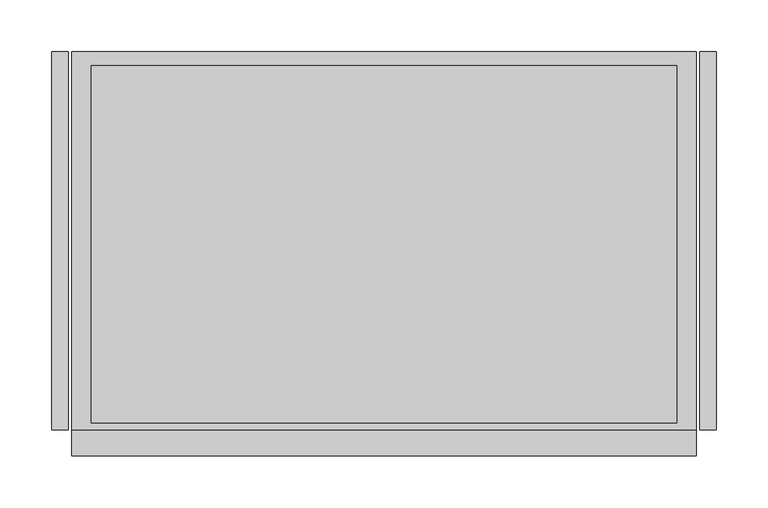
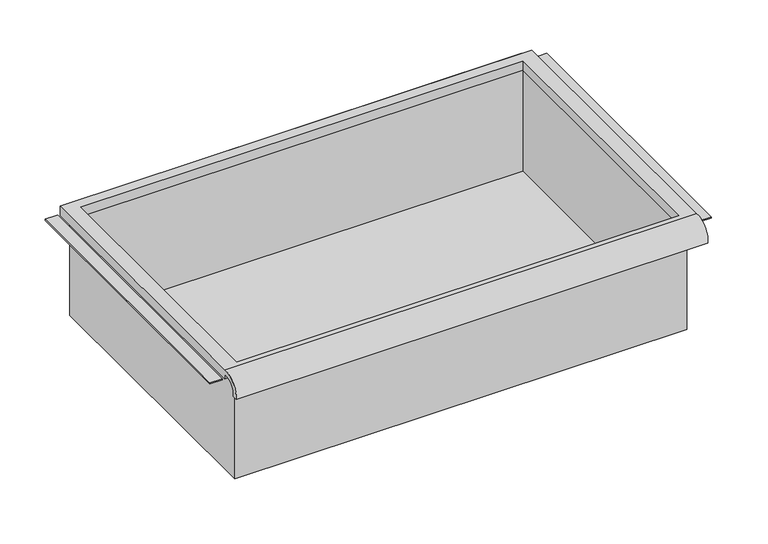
"""IFC4 building model written with IfcOpenShell, lengths in millimetres: furniture geometry."""

from ifc_helpers import new_model, si_unit, frame, origin, place, context, project, spatial, polyline, circle_curve, faceted_brep, source, transform, mapped, element, save
from ifc_brep_helpers import plane_surface, cylinder_surface, revolved_surface, advanced_brep


def furniture_9667c672(model_context):
    return source(origin(), model_context, "Body", "SolidModel", [
        advanced_brep(
        [(305.0224999, -195.297482, 510.3849529), (305.0224999, -188.9125, 510.3849529), (305.0224999, -169.8625, 528.6464261), (305.0224999, -169.8625, 522.2964246), (305.0224999, 195.2625, 522.2964246), (305.0224999, 195.2625, 534.9964261), (305.0224999, -169.8625, 534.9964261), (-298.2275001, -195.297482, 510.3849529), (-298.2275001, -169.8625, 534.9964261), (-298.2275001, 195.2625, 534.9964261), (-298.2275001, 195.2625, 522.2964246), (-298.2275001, -169.8625, 522.2964246), (-298.2275001, -169.8625, 528.6464261), (-298.2275001, -188.9125, 510.3849529), (285.9725003, 181.9275, 522.2964246), (-279.1775005, 181.9275, 522.2964246), (-279.1775005, -163.5125, 522.2964246), (285.9725003, -163.5125, 522.2964246), (-279.1775005, 181.9275, 534.9964261), (285.9725003, 181.9275, 534.9964261), (285.9725003, -163.5125, 534.9964261), (-279.1775005, -163.5125, 534.9964261)],
        [
            (0, 1),
            (1, 2, circle_curve(frame((305.0224999, -172.3404634, 512.1643633), z_axis=(-1.0, 0.0, 0.0), x_axis=(0.0, 1.0, 0.0)), 16.6672942)),
            (2, 3),
            (3, 4),
            (4, 5),
            (5, 6),
            (6, 0, circle_curve(frame((305.0224999, -172.4601678, 512.2322533), z_axis=(1.0, 0.0, 0.0), x_axis=(0.0, 1.0, 0.0)), 22.9119061)),
            (7, 8, circle_curve(frame((-298.2275001, -172.4601678, 512.2322533), z_axis=(-1.0, 0.0, 0.0), x_axis=(0.0, 1.0, 0.0)), 22.9119061)),
            (8, 9),
            (9, 10),
            (10, 11),
            (11, 12),
            (12, 13, circle_curve(frame((-298.2275001, -172.3404634, 512.1643633), z_axis=(1.0, 0.0, 0.0), x_axis=(0.0, 1.0, 0.0)), 16.6672942)),
            (13, 7),
            (0, 7),
            (13, 1),
            (12, 2),
            (11, 3),
            (10, 4),
            (14, 15),
            (15, 16),
            (16, 17),
            (17, 14),
            (9, 5),
            (8, 6),
            (18, 19),
            (19, 20),
            (20, 21),
            (21, 18),
            (14, 19),
            (18, 15),
            (21, 16),
            (20, 17),
        ],
        [
            plane_surface(frame((305.0224999, -195.297482, 510.3849529), z_axis=(1.0, 0.0, 0.0), x_axis=(0.0, 1.0, 0.0))),
            plane_surface(frame((-298.2275001, -195.297482, 510.3849529), z_axis=(-1.0, 0.0, 0.0), x_axis=(0.0, -1.0, 0.0))),
            plane_surface(frame((305.0224999, -195.297482, 510.3849529), z_axis=(0.0, 0.0, -1.0), x_axis=(-1.0, 0.0, 0.0))),
            revolved_surface(polyline([(-298.2275001, -155.67316920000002, 512.1643633), (305.0224999, -155.67316920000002, 512.1643633)]), (-298.2275001, -172.3404634, 512.1643633), (-1.0, 0.0, 0.0)),
            plane_surface(frame((305.0224999, -169.8625, 528.6464261), z_axis=(0.0, -1.0, 0.0), x_axis=(-1.0, 0.0, 0.0))),
            plane_surface(frame((305.0224999, -169.8625, 522.2964246), z_axis=(0.0, 0.0, -1.0), x_axis=(-1.0, 0.0, 0.0))),
            plane_surface(frame((305.0224999, 195.2625, 522.2964246), z_axis=(0.0, 1.0, 0.0), x_axis=(-1.0, 0.0, 0.0))),
            plane_surface(frame((305.0224999, 195.2625, 534.9964261), z_axis=(0.0, 0.0, 1.0), x_axis=(-1.0, 0.0, 0.0))),
            cylinder_surface(frame((-298.2275001, -172.4601678, 512.2322533), z_axis=(1.0, 0.0, 0.0), x_axis=(0.0, 1.0, 0.0)), 22.9119061),
            plane_surface(frame((285.9725003, 181.9275, 534.9964261), z_axis=(0.0, -1.0, 0.0), x_axis=(0.0, 0.0, -1.0))),
            plane_surface(frame((-279.1775005, 181.9275, 534.9964261), z_axis=(1.0, 0.0, 0.0), x_axis=(0.0, 0.0, -1.0))),
            plane_surface(frame((-279.1775005, -163.5125, 534.9964261), z_axis=(0.0, 1.0, 0.0), x_axis=(0.0, 0.0, -1.0))),
            plane_surface(frame((285.9725003, -163.5125, 534.9964261), z_axis=(-1.0, 0.0, 0.0), x_axis=(0.0, 0.0, -1.0))),
        ],
        [
            (0, [[1, 2, 3, 4, 5, 6, 7]]),
            (1, [[8, 9, 10, 11, 12, 13, 14]]),
            (2, [[-1, 15, -14, 16]]),
            (3, [[-2, -16, -13, 17]]),
            (4, [[-3, -17, -12, 18]]),
            (5, [[-4, -18, -11, 19], [20, 21, 22, 23]]),
            (6, [[-5, -19, -10, 24]]),
            (7, [[-6, -24, -9, 25], [26, 27, 28, 29]]),
            (8, [[-7, -25, -8, -15]]),
            (9, [[30, -26, 31, -20]]),
            (10, [[-31, -29, 32, -21]]),
            (11, [[-32, -28, 33, -22]]),
            (12, [[-30, -23, -33, -27]]),
        ],
    ),
        faceted_brep([(-285.5275005, -169.8625, 382.5964261), (292.3225003, -169.8625, 382.5964261), (292.3225003, -169.8625, 534.9964261), (-285.5275005, -169.8625, 534.9964261), (-285.5275005, 195.2625, 382.5964261), (-285.5275005, 195.2625, 534.9964261), (292.3225003, 195.2625, 534.9964261), (292.3225003, 195.2625, 382.5964261), (-279.1775005, 181.9275, 534.9964261), (285.9725003, 181.9275, 534.9964261), (285.9725003, -163.5125, 534.9964261), (-279.1775005, -163.5125, 534.9964261), (285.9725003, 181.9275, 385.622598), (-279.1775005, 181.9275, 385.622598), (-279.1775005, -163.5125, 385.622598), (285.9725003, -163.5125, 385.622598)], [[[0, 1, 2, 3]], [[4, 5, 6, 7]], [[1, 0, 4, 7]], [[2, 1, 7, 6]], [[3, 2, 6, 5], [8, 9, 10, 11]], [[0, 3, 5, 4]], [[12, 13, 14, 15]], [[13, 12, 9, 8]], [[14, 13, 8, 11]], [[15, 14, 11, 10]], [[12, 15, 10, 9]]]),
        faceted_brep([(-317.2774997, 195.2625, 522.2964246), (-317.2774997, 195.2625, 523.8839246), (-301.4025001, 195.2625, 523.8839246), (-301.4025001, 195.2625, 522.2964246), (-317.2774997, -169.8625, 522.2964246), (-301.4025001, -169.8625, 522.2964246), (-301.4025001, -169.8625, 523.8839246), (-317.2774997, -169.8625, 523.8839246)], [[[0, 1, 2, 3]], [[4, 5, 6, 7]], [[1, 0, 4, 7]], [[2, 1, 7, 6]], [[3, 2, 6, 5]], [[0, 3, 5, 4]]]),
        faceted_brep([(324.0725245, 195.2625, 522.2964246), (308.1974999, 195.2625, 522.2964246), (308.1974999, 195.2625, 523.8839246), (324.0725245, 195.2625, 523.8839246), (324.0725245, -169.8625, 522.2964246), (324.0725245, -169.8625, 523.8839246), (308.1974999, -169.8625, 523.8839246), (308.1974999, -169.8625, 522.2964246)], [[[0, 1, 2, 3]], [[4, 5, 6, 7]], [[1, 0, 4, 7]], [[2, 1, 7, 6]], [[3, 2, 6, 5]], [[0, 3, 5, 4]]]),
    ])


if __name__ == "__main__":
    model = new_model("IFC4")
    model_context = context("Model", 3, world=origin())
    ifc_project = project(units=[si_unit("LENGTHUNIT", "METRE", prefix="MILLI")], contexts=[model_context])
    site = spatial("IfcSite", under=ifc_project)
    building = spatial("IfcBuilding", under=site)
    placement = place(None, origin())
    furniture_shape = furniture_9667c672(model_context)
    element("IfcFurniture", 1, ObjectType="HermanMiller_Carts_CT511_Drawer : 6\"H x 15\"D x 24\"W", at=placement, inside=building, context=model_context, shape_type="MappedRepresentation", body=[
        mapped(furniture_shape, transform((0.0, 0.0, 0.0), x_axis=(1.0, 0.0, 0.0), y_axis=(0.0, 1.0, 0.0), z_axis=(0.0, 0.0, 1.0))),
    ])
    save(model, "model.ifc")
